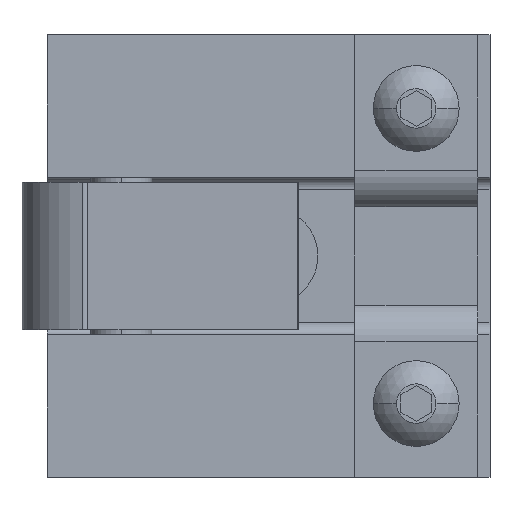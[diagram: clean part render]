
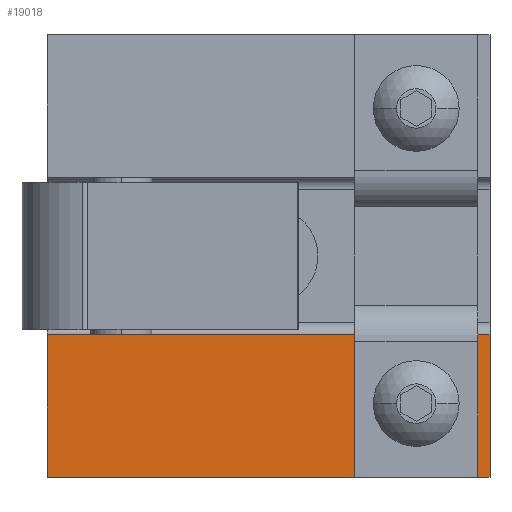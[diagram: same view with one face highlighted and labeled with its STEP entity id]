
A CAD part, left-side view. The second image highlights one B-rep face of the part: STEP entity #19018.
In plain terms, the highlighted planar face has unit normal (-1, 0, 0).
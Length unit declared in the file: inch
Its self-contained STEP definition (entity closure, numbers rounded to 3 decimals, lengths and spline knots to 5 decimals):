
#8207 = CARTESIAN_POINT ( 'NONE',  ( 7.43951, 4.12904, -1.75 ) ) ;
#8208 = DIRECTION ( 'NONE',  ( 0., 0., 1. ) ) ;
#8209 = DIRECTION ( 'NONE',  ( -1., 0., 0. ) ) ;
#8210 = CARTESIAN_POINT ( 'NONE',  ( 7.43951, 4.12904, -1.875 ) ) ;
#8211 = AXIS2_PLACEMENT_3D ( 'NONE', #8210, #8209, #8208 ) ;
#8212 = CIRCLE ( 'NONE', #8211, 0.125 ) ;
#8213 = CARTESIAN_POINT ( 'NONE',  ( 7.43951, 4.12904, -2. ) ) ;
#8350 = CARTESIAN_POINT ( 'NONE',  ( 7.43951, 6.00404, -2.25 ) ) ;
#8377 = DIRECTION ( 'NONE',  ( 0., 0., 1. ) ) ;
#8378 = VECTOR ( 'NONE', #8377, 39.37008 ) ;
#8379 = CARTESIAN_POINT ( 'NONE',  ( 7.43951, 6.00404, -2.25 ) ) ;
#8380 = LINE ( 'NONE', #8379, #8378 ) ;
#8446 = CARTESIAN_POINT ( 'NONE',  ( 7.43951, 6.00404, -1.525 ) ) ;
#9162 = ORIENTED_EDGE ( 'NONE', *, *, #19345, .F. ) ;
#14836 = DIRECTION ( 'NONE',  ( 0., 0., 1. ) ) ;
#14837 = DIRECTION ( 'NONE',  ( -1., 0., 0. ) ) ;
#14838 = CARTESIAN_POINT ( 'NONE',  ( 7.43951, 3.75404, -2.25 ) ) ;
#14839 = AXIS2_PLACEMENT_3D ( 'NONE', #14838, #14837, #14836 ) ;
#14840 = PLANE ( 'NONE',  #14839 ) ;
#14841 = FACE_OUTER_BOUND ( 'NONE', #19349, .T. ) ;
#14842 = FACE_BOUND ( 'NONE', #19022, .T. ) ;
#15711 = CARTESIAN_POINT ( 'NONE',  ( 7.43951, 3.75404, -2.25 ) ) ;
#15803 = DIRECTION ( 'NONE',  ( 0., 0., 1. ) ) ;
#15804 = VECTOR ( 'NONE', #15803, 39.37008 ) ;
#15805 = CARTESIAN_POINT ( 'NONE',  ( 7.43951, 3.75404, -2.25 ) ) ;
#15822 = LINE ( 'NONE', #15805, #15804 ) ;
#15852 = DIRECTION ( 'NONE',  ( 0., 0., 1. ) ) ;
#15853 = DIRECTION ( 'NONE',  ( -1., 0., 0. ) ) ;
#15854 = CARTESIAN_POINT ( 'NONE',  ( 7.43951, 4.12904, -1.875 ) ) ;
#15855 = AXIS2_PLACEMENT_3D ( 'NONE', #15854, #15853, #15852 ) ;
#15856 = CIRCLE ( 'NONE', #15855, 0.125 ) ;
#16056 = DIRECTION ( 'NONE',  ( 0., -1., 0. ) ) ;
#16057 = VECTOR ( 'NONE', #16056, 39.37008 ) ;
#16058 = CARTESIAN_POINT ( 'NONE',  ( 7.43951, 3.75404, -1.525 ) ) ;
#16059 = LINE ( 'NONE', #16058, #16057 ) ;
#16093 = CARTESIAN_POINT ( 'NONE',  ( 7.43951, 3.75404, -1.525 ) ) ;
#16161 = LINE ( 'NONE', #16211, #16210 ) ;
#16209 = DIRECTION ( 'NONE',  ( 0., -1., 0. ) ) ;
#16210 = VECTOR ( 'NONE', #16209, 39.37008 ) ;
#16211 = CARTESIAN_POINT ( 'NONE',  ( 7.43951, 3.75404, -2.25 ) ) ;
#19013 = ORIENTED_EDGE ( 'NONE', *, *, #19415, .F. ) ;
#19018 = ADVANCED_FACE ( 'NONE', ( #14842, #14841 ), #14840, .T. ) ;
#19022 = EDGE_LOOP ( 'NONE', ( #9162, #19347 ) ) ;
#19315 = VERTEX_POINT ( 'NONE', #15711 ) ;
#19321 = ORIENTED_EDGE ( 'NONE', *, *, #19465, .T. ) ;
#19337 = EDGE_CURVE ( 'NONE', #19315, #19423, #15822, .T. ) ;
#19345 = EDGE_CURVE ( 'NONE', #23619, #23616, #15856, .T. ) ;
#19347 = ORIENTED_EDGE ( 'NONE', *, *, #23618, .F. ) ;
#19349 = EDGE_LOOP ( 'NONE', ( #19013, #19409, #19321, #19467 ) ) ;
#19409 = ORIENTED_EDGE ( 'NONE', *, *, #23686, .F. ) ;
#19415 = EDGE_CURVE ( 'NONE', #23715, #19423, #16059, .T. ) ;
#19423 = VERTEX_POINT ( 'NONE', #16093 ) ;
#19465 = EDGE_CURVE ( 'NONE', #23668, #19315, #16161, .T. ) ;
#19467 = ORIENTED_EDGE ( 'NONE', *, *, #19337, .T. ) ;
#23616 = VERTEX_POINT ( 'NONE', #8213 ) ;
#23618 = EDGE_CURVE ( 'NONE', #23616, #23619, #8212, .T. ) ;
#23619 = VERTEX_POINT ( 'NONE', #8207 ) ;
#23668 = VERTEX_POINT ( 'NONE', #8350 ) ;
#23686 = EDGE_CURVE ( 'NONE', #23668, #23715, #8380, .T. ) ;
#23715 = VERTEX_POINT ( 'NONE', #8446 ) ;
